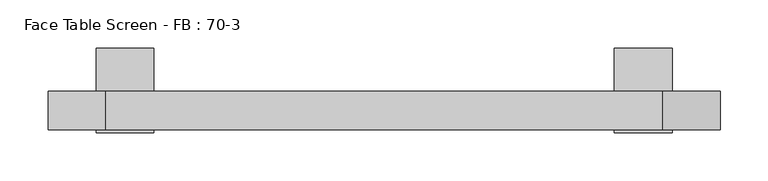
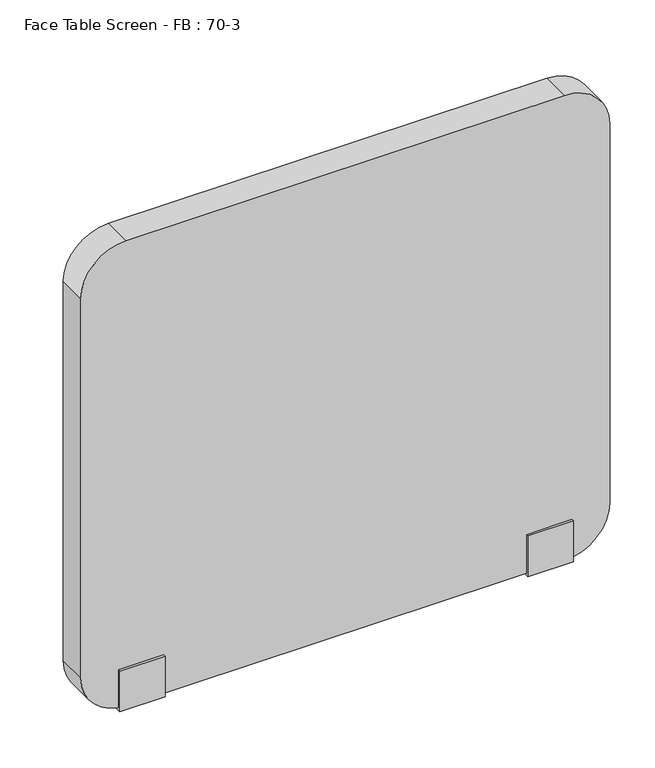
"""IFC4 building model written with IfcOpenShell, lengths in millimetres: furniture geometry, Face Table Screen - FB : 70-3."""

from ifc_helpers import new_model, si_unit, point, frame, frame_2d, origin, place, context, project, spatial, polyline, circle_curve, trimmed, segment, composite_curve, outline, extrude, source, transform, mapped, element, save


def face_table_screen_fb_70_3_6cf05b35(model_context):
    return source(origin(), model_context, "Body", "SweptSolid", [
        extrude(outline(polyline([(-42.9999947, -156.0), (-42.9999997, -99.0433898), (-40.0, -99.0433898), (-40.0, -153.0), (0.0, -153.0), (0.0, -22.0), (45.0, -22.0), (45.0, -25.0433898), (3.0000062, -25.0433898), (2.9999947, -156.0), (-42.9999947, -156.0)])), frame((259.9863751, 0.0, 0.0), z_axis=(1.0, 0.0, 0.0), x_axis=(0.0, 1.0, 0.0)), (0.0, 0.0, 1.0), 60.0),
        extrude(outline(polyline([(-42.9999947, -156.0), (-42.9999997, -99.0433898), (-40.0, -99.0433898), (-40.0, -153.0), (0.0, -153.0), (0.0, -22.0), (45.0, -22.0), (45.0, -25.0433898), (3.0000062, -25.0433898), (2.9999947, -156.0), (-42.9999947, -156.0)])), frame((-280.0136249, 0.0, 0.0), z_axis=(1.0, 0.0, 0.0), x_axis=(0.0, 1.0, 0.0)), (0.0, 0.0, 1.0), 60.0),
        extrude(outline(composite_curve([segment(polyline([(497.0, 309.9863751), (497.0, -270.0136249)]), True, "CONTINUOUS"), segment(trimmed(circle_curve(frame_2d((437.0, -270.0136249)), 60.0), [point((497.0, -270.0136249))], [point((437.0, -330.0136249))], False, "CARTESIAN"), True, "CONTINUOUS"), segment(polyline([(437.0, -330.0136249), (-93.0, -330.0136249)]), True, "CONTINUOUS"), segment(trimmed(circle_curve(frame_2d((-93.0, -270.0136249)), 60.0), [point((-93.0, -330.0136249))], [point((-153.0, -270.0136249))], False, "CARTESIAN"), True, "CONTINUOUS"), segment(polyline([(-153.0, -270.0136249), (-153.0, 309.9863751)]), True, "CONTINUOUS"), segment(trimmed(circle_curve(frame_2d((-93.0, 309.9863751)), 60.0), [point((-153.0, 309.9863751))], [point((-93.0, 369.9863751))], False, "CARTESIAN"), True, "CONTINUOUS"), segment(polyline([(-93.0, 369.9863751), (437.0, 369.9863751)]), True, "CONTINUOUS"), segment(trimmed(circle_curve(frame_2d((437.0, 309.9863751)), 60.0), [point((437.0, 369.9863751))], [point((497.0, 309.9863751))], False, "CARTESIAN"), True, "CONTINUOUS")], self_intersect=False)), frame((0.0, -40.0, 0.0), z_axis=(0.0, 1.0, 0.0), x_axis=(0.0, 0.0, 1.0)), (0.0, 0.0, 1.0), 40.0),
    ])


if __name__ == "__main__":
    model = new_model("IFC4")
    model_context = context("Model", 3, world=origin())
    ifc_project = project(units=[si_unit("LENGTHUNIT", "METRE", prefix="MILLI")], contexts=[model_context])
    site = spatial("IfcSite", under=ifc_project)
    building = spatial("IfcBuilding", under=site)
    placement = place(None, origin())
    face_table_screen_fb_70_3_shape = face_table_screen_fb_70_3_6cf05b35(model_context)
    element("IfcFurniture", 1, ObjectType="Face Table Screen - FB : 70-3", at=placement, inside=building, context=model_context, shape_type="MappedRepresentation", body=[
        mapped(face_table_screen_fb_70_3_shape, transform((0.0, 0.0, 0.0), x_axis=(1.0, 0.0, 0.0), y_axis=(0.0, 1.0, 0.0), z_axis=(0.0, 0.0, 1.0))),
    ])
    save(model, "model.ifc")
